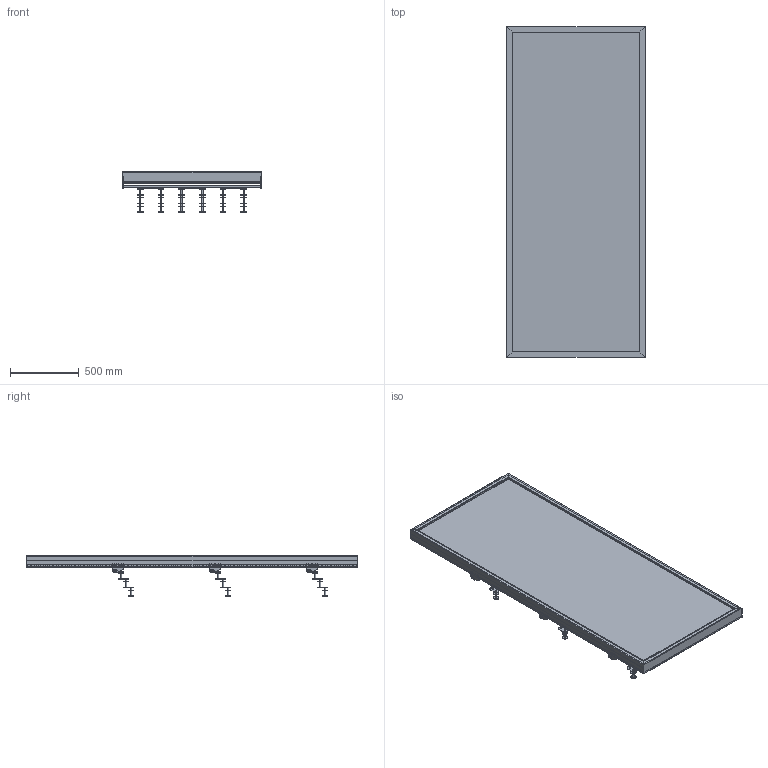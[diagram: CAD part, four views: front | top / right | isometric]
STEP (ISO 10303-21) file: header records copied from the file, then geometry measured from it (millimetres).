
FILE_DESCRIPTION (( 'STEP AP203' ), '1' );
FILE_NAME ('Padel Racket Display 1005mm - 3 Tier Stepped Holder.STEP', '2026-03-30T11:34:36', ( '' ), ( '' ), 'SwSTEP 2.0', 'SolidWorks 2025', '' );
FILE_SCHEMA (( 'CONFIG_CONTROL_DESIGN' ));
Length unit declared in the file: millimetre
Products named in the file (7): 370-01-GA01; 0001-31-SA26 - 1005W Rear support Bar_Assem8; 0001-31-131.STEP; 0001-31-103.STEP; Padel Racket Display 1005mm - 3 Tier Stepped Holder; 0001-31-GA10 - 1005W Slotted upbright; 0001-31-SA26 - 1005W Rear support Bar.STEP
Assembly tree (20 placements, depth 4):
  Padel Racket Display 1005mm - 3 Tier Stepped Holder
    0001-31-GA10 - 1005W Slotted upbright
    0001-31-SA26 - 1005W Rear support Bar_Assem8  x3
      0001-31-SA26 - 1005W Rear support Bar.STEP
        0001-31-103.STEP  x2
        0001-31-131.STEP
    370-01-GA01  x12
Bounding box: 1005.74 x 2400 x 290.15 mm (x, y, z)
Volume: 9686084 mm3; surface area: 13476637 mm2
Topology: 243 solids, 243 shells, 2548 faces, 6534 edges, 4324 vertices
Faces by surface type: plane 1462, cylinder 1086
Entity records: 30560 total; most frequent: CARTESIAN_POINT 5573, ORIENTED_EDGE 5354, DIRECTION 4419, EDGE_CURVE 2677, VECTOR 2395, LINE 2395, VERTEX_POINT 1782, AXIS2_PLACEMENT_3D 1012
